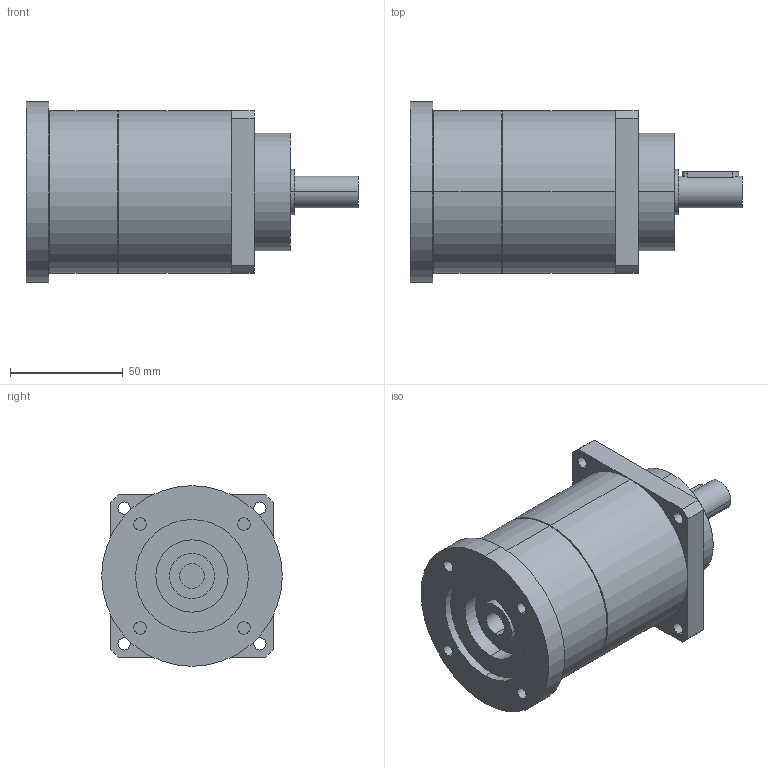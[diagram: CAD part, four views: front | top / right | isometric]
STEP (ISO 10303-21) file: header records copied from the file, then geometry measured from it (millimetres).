
FILE_DESCRIPTION(('CoCreate Modeling STEP Export'),'2;1');
FILE_NAME('GPT75_ig-9-12-16-20-25-28-35-40-50-70-100_14_B5T_11_P13.stp','2014-08-27T13:34:24',(''),(''),'CoCreate Modeling STEP processor for AP214 (Solid Model)','CoCreate Modeling 16.00C 25-Feb-2009 (C) Parametric Technology GmbH','');
FILE_SCHEMA(('AUTOMOTIVE_DESIGN { 1 0 10303 214 1 1 1 1 }'));
Length unit declared in the file: millimetre
Products named in the file (2): GPT75_ig-9-12-16-20-25-28-35-40-50-70-100_14_B5T_11_P13
Assembly tree (1 placements, depth 2):
  GPT75_ig-9-12-16-20-25-28-35-40-50-70-100_14_B5T_11_P13
    GPT75_ig-9-12-16-20-25-28-35-40-50-70-100_14_B5T_11_P13
Bounding box: 147 x 80 x 80 mm (x, y, z)
Volume: 454601.5 mm3; surface area: 44191.5 mm2
Topology: 1 solids, 1 shells, 75 faces, 178 edges, 119 vertices
Faces by surface type: cylinder 44, plane 27, cone 4
Entity records: 2281 total; most frequent: CARTESIAN_POINT 682, ORIENTED_EDGE 356, DIRECTION 280, EDGE_CURVE 178, VERTEX_POINT 119, AXIS2_PLACEMENT_3D 105, EDGE_LOOP 97, FACE_OUTER_BOUND 75
